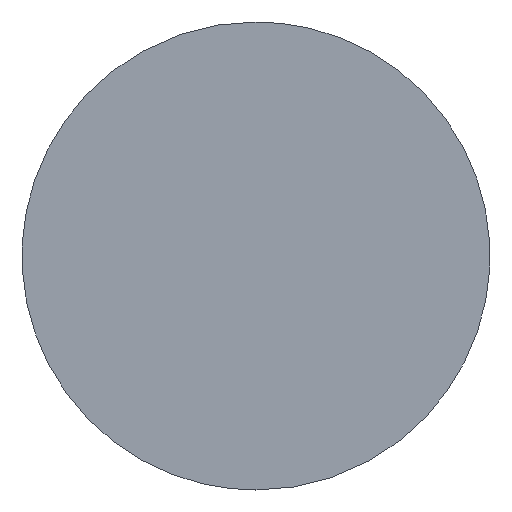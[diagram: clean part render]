
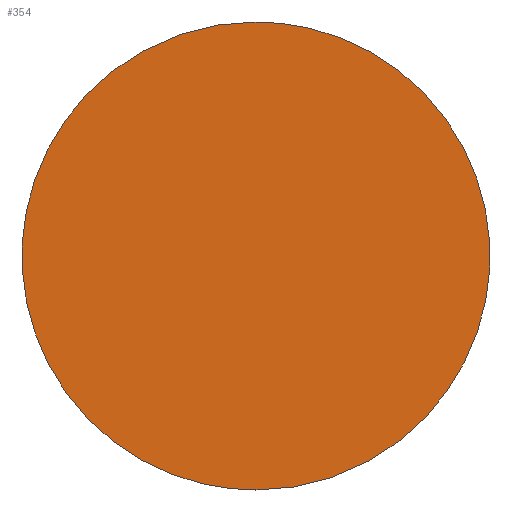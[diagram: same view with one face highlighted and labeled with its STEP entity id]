
A CAD part, top view. The second image highlights one B-rep face of the part: STEP entity #354.
In plain terms, the highlighted planar face has unit normal (0, 0, 1).
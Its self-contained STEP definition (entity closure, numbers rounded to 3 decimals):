
#354=ADVANCED_FACE('',(#786),#5833,.T.);
#786=FACE_OUTER_BOUND('',#1220,.T.);
#1220=EDGE_LOOP('',(#1830,#1831));
#1830=ORIENTED_EDGE('',*,*,#3618,.T.);
#1831=ORIENTED_EDGE('',*,*,#3682,.T.);
#3618=EDGE_CURVE('',#5239,#5282,#4542,.T.);
#3682=EDGE_CURVE('',#5282,#5239,#4606,.T.);
#4542=(
BOUNDED_CURVE()
B_SPLINE_CURVE(3,(#8040,#8041,#8042,#8043,#8044,#8045,#8046,#8047,#8048,
#8049,#8050,#8051,#8052,#8053,#8054,#8055,#8056,#8057,#8058,#8059,#8060),
 .UNSPECIFIED.,.F.,.F.)
B_SPLINE_CURVE_WITH_KNOTS((4,1,1,1,1,1,1,1,3,1,1,1,1,1,1,1,4),(-282.743,
-274.262,-265.78,-256.59,-247.4,
-238.211,-229.021,-220.539,-212.058,
-203.576,-195.094,-185.904,-176.715,
-167.525,-158.335,-149.853,-141.372),
 .UNSPECIFIED.)
CURVE()
GEOMETRIC_REPRESENTATION_ITEM()
RATIONAL_B_SPLINE_CURVE((1.,0.977,0.935,0.889,
0.86,0.85,0.86,0.889,
0.935,0.977,1.,0.977,0.935,
0.889,0.86,0.85,0.86,
0.889,0.935,0.977,1.))
REPRESENTATION_ITEM('')
);
#4606=(
BOUNDED_CURVE()
B_SPLINE_CURVE(3,(#8326,#8327,#8328,#8329,#8330,#8331,#8332,#8333,#8334,
#8335,#8336,#8337,#8338,#8339,#8340,#8341,#8342,#8343,#8344,#8345,#8346),
 .UNSPECIFIED.,.F.,.F.)
B_SPLINE_CURVE_WITH_KNOTS((4,1,1,1,1,1,1,1,3,1,1,1,1,1,1,1,4),(-141.372,
-132.89,-124.409,-115.219,-106.029,
-96.839,-87.649,-79.167,-70.686,
-62.204,-53.723,-44.533,-35.343,
-26.153,-16.963,-8.482,0.),.UNSPECIFIED.)
CURVE()
GEOMETRIC_REPRESENTATION_ITEM()
RATIONAL_B_SPLINE_CURVE((1.,0.977,0.935,0.889,
0.86,0.85,0.86,0.889,
0.935,0.977,1.,0.977,0.935,
0.889,0.86,0.85,0.86,
0.889,0.935,0.977,1.))
REPRESENTATION_ITEM('')
);
#5239=VERTEX_POINT('',#7931);
#5282=VERTEX_POINT('',#7974);
#5833=PLANE('',#6617);
#6617=AXIS2_PLACEMENT_3D('',#7341,#6726,$);
#6726=DIRECTION('',(0.,0.,1.));
#7341=CARTESIAN_POINT('',(-4590.429,-4588.927,7400.062));
#7931=CARTESIAN_POINT('',(-0.427,4501.076,7400.062));
#7974=CARTESIAN_POINT('',(-0.427,-4498.927,7400.062));
#8040=CARTESIAN_POINT('',(-0.427,4501.076,7400.062));
#8041=CARTESIAN_POINT('',(-261.071,4501.076,7400.062));
#8042=CARTESIAN_POINT('',(-797.704,4454.897,7400.062));
#8043=CARTESIAN_POINT('',(-1628.866,4227.798,7400.062));
#8044=CARTESIAN_POINT('',(-2453.407,3814.383,7400.062));
#8045=CARTESIAN_POINT('',(-3207.112,3207.759,7400.062));
#8046=CARTESIAN_POINT('',(-3813.735,2454.055,7400.062));
#8047=CARTESIAN_POINT('',(-4227.151,1629.513,7400.062));
#8048=CARTESIAN_POINT('',(-4454.25,798.351,7400.062));
#8049=CARTESIAN_POINT('',(-4500.429,261.718,7400.062));
#8050=CARTESIAN_POINT('',(-4500.429,1.075,7400.062));
#8051=CARTESIAN_POINT('',(-4500.429,-259.569,7400.062));
#8052=CARTESIAN_POINT('',(-4454.25,-796.202,7400.062));
#8053=CARTESIAN_POINT('',(-4227.151,-1627.364,7400.062));
#8054=CARTESIAN_POINT('',(-3813.735,-2451.906,7400.062));
#8055=CARTESIAN_POINT('',(-3207.112,-3205.61,7400.062));
#8056=CARTESIAN_POINT('',(-2453.407,-3812.233,7400.062));
#8057=CARTESIAN_POINT('',(-1628.866,-4225.649,7400.062));
#8058=CARTESIAN_POINT('',(-797.704,-4452.748,7400.062));
#8059=CARTESIAN_POINT('',(-261.071,-4498.927,7400.062));
#8060=CARTESIAN_POINT('',(-0.427,-4498.927,7400.062));
#8326=CARTESIAN_POINT('',(-0.427,-4498.927,7400.062));
#8327=CARTESIAN_POINT('',(260.216,-4498.927,7400.062));
#8328=CARTESIAN_POINT('',(796.849,-4452.748,7400.062));
#8329=CARTESIAN_POINT('',(1628.011,-4225.649,7400.062));
#8330=CARTESIAN_POINT('',(2452.553,-3812.233,7400.062));
#8331=CARTESIAN_POINT('',(3206.257,-3205.61,7400.062));
#8332=CARTESIAN_POINT('',(3812.881,-2451.906,7400.062));
#8333=CARTESIAN_POINT('',(4226.296,-1627.364,7400.062));
#8334=CARTESIAN_POINT('',(4453.395,-796.202,7400.062));
#8335=CARTESIAN_POINT('',(4499.574,-259.569,7400.062));
#8336=CARTESIAN_POINT('',(4499.574,1.075,7400.062));
#8337=CARTESIAN_POINT('',(4499.574,261.718,7400.062));
#8338=CARTESIAN_POINT('',(4453.395,798.351,7400.062));
#8339=CARTESIAN_POINT('',(4226.296,1629.513,7400.062));
#8340=CARTESIAN_POINT('',(3812.881,2454.055,7400.062));
#8341=CARTESIAN_POINT('',(3206.257,3207.759,7400.062));
#8342=CARTESIAN_POINT('',(2452.553,3814.383,7400.062));
#8343=CARTESIAN_POINT('',(1628.011,4227.798,7400.062));
#8344=CARTESIAN_POINT('',(796.849,4454.897,7400.062));
#8345=CARTESIAN_POINT('',(260.216,4501.076,7400.062));
#8346=CARTESIAN_POINT('',(-0.427,4501.076,7400.062));
